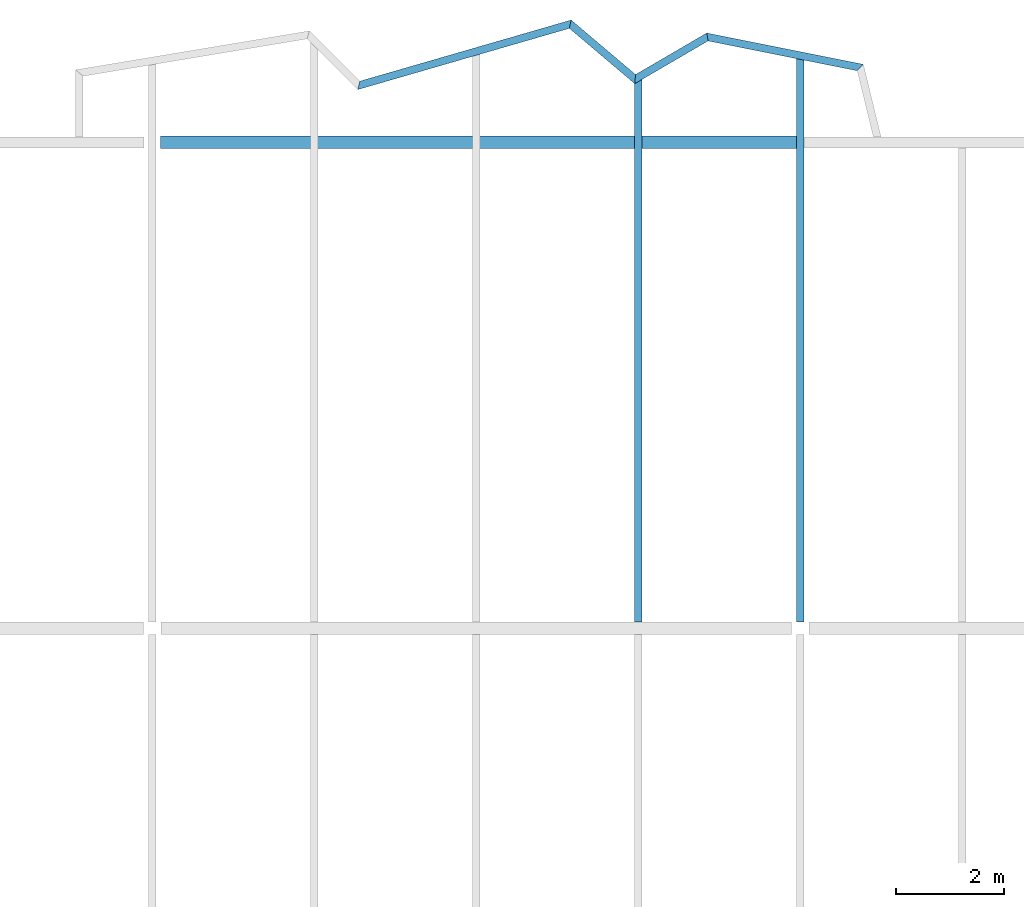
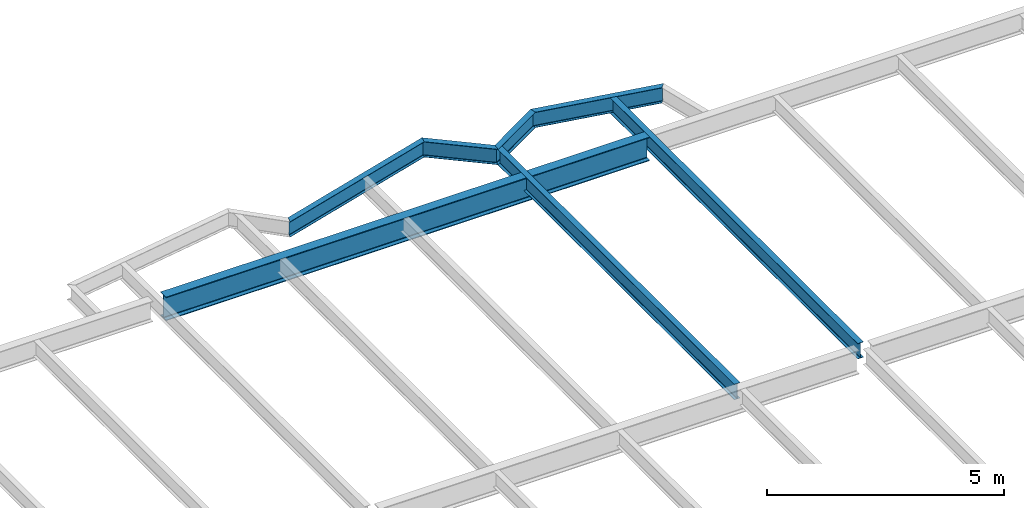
# One storey, part 11 of 26: 7 beams.
"""IFC2X3 building model written with IfcOpenShell, lengths in millimetres."""

from ifc_helpers import new_model, si_unit, origin, place, context, project, spatial, faceted_brep, material, element, save


model = new_model("IFC2X3")

# Units and contexts
context_of_model = context(None, 3, precision=1e-05, world=origin())
ifc_project = project(units=[si_unit("LENGTHUNIT", "METRE", prefix="MILLI")], contexts=[context_of_model])

# Building, storey
building = spatial("IfcBuilding", under=ifc_project, Name="Building", CompositionType="ELEMENT")
storey = spatial("IfcBuildingStorey", under=building, Name="FL4-FRM", CompositionType="ELEMENT")

# Beams
ifc_material_1 = material(Name="A992")
beam_1_placement = place(None, origin())
element("IfcBeam", 1, at=beam_1_placement, inside=storey, material=ifc_material_1, Name="Column351", context=context_of_model, shape_type="Brep", body=[
    faceted_brep([(-47846.0, 35885.5, 12761.0), (-47846.0, 36114.5, 12761.0), (-36070.0, 36114.5, 12761.0), (-36070.0, 35885.5, 12761.0), (-47846.0, 36114.5, 12780.6), (-36070.0, 36114.5, 12780.6), (-47846.0, 36018.6, 12780.6), (-36070.0, 36018.6, 12780.6), (-47846.0, 36015.4, 12781.0), (-36070.0, 36015.4, 12781.0), (-47846.0, 36012.3, 12782.3), (-36070.0, 36012.3, 12782.3), (-47846.0, 36009.7, 12784.3), (-36070.0, 36009.7, 12784.3), (-47846.0, 36007.7, 12787.0), (-36070.0, 36007.7, 12787.0), (-47846.0, 36006.4, 12790.0), (-36070.0, 36006.4, 12790.0), (-47846.0, 36005.9, 12793.3), (-36070.0, 36005.9, 12793.3), (-47846.0, 36005.9, 13340.7), (-36070.0, 36005.9, 13340.7), (-47846.0, 36006.4, 13344.0), (-36070.0, 36006.4, 13344.0), (-47846.0, 36007.7, 13347.0), (-36070.0, 36007.7, 13347.0), (-47846.0, 36009.7, 13349.7), (-36070.0, 36009.7, 13349.7), (-47846.0, 36012.3, 13351.7), (-36070.0, 36012.3, 13351.7), (-47846.0, 36015.4, 13353.0), (-36070.0, 36015.4, 13353.0), (-47846.0, 36018.6, 13353.4), (-36070.0, 36018.6, 13353.4), (-47846.0, 36114.5, 13353.4), (-36070.0, 36114.5, 13353.4), (-47846.0, 36114.5, 13373.0), (-36070.0, 36114.5, 13373.0), (-47846.0, 35885.5, 13373.0), (-36070.0, 35885.5, 13373.0), (-47846.0, 35885.5, 13353.4), (-36070.0, 35885.5, 13353.4), (-47846.0, 35981.4, 13353.4), (-36070.0, 35981.4, 13353.4), (-47846.0, 35984.6, 13353.0), (-36070.0, 35984.6, 13353.0), (-47846.0, 35987.7, 13351.7), (-36070.0, 35987.7, 13351.7), (-47846.0, 35990.3, 13349.7), (-36070.0, 35990.3, 13349.7), (-47846.0, 35992.3, 13347.0), (-36070.0, 35992.3, 13347.0), (-47846.0, 35993.6, 13344.0), (-36070.0, 35993.6, 13344.0), (-47846.0, 35994.1, 13340.7), (-36070.0, 35994.1, 13340.7), (-47846.0, 35994.1, 12793.3), (-36070.0, 35994.1, 12793.3), (-47846.0, 35993.6, 12790.0), (-36070.0, 35993.6, 12790.0), (-47846.0, 35992.3, 12787.0), (-36070.0, 35992.3, 12787.0), (-47846.0, 35990.3, 12784.3), (-36070.0, 35990.3, 12784.3), (-47846.0, 35987.7, 12782.3), (-36070.0, 35987.7, 12782.3), (-47846.0, 35984.6, 12781.0), (-36070.0, 35984.6, 12781.0), (-47846.0, 35981.4, 12780.6), (-36070.0, 35981.4, 12780.6), (-47846.0, 35885.5, 12780.6), (-36070.0, 35885.5, 12780.6)], [[[0, 1, 2, 3]], [[1, 4, 5, 2]], [[4, 6, 7, 5]], [[6, 8, 9, 7]], [[8, 10, 11, 9]], [[10, 12, 13, 11]], [[12, 14, 15, 13]], [[14, 16, 17, 15]], [[16, 18, 19, 17]], [[18, 20, 21, 19]], [[20, 22, 23, 21]], [[22, 24, 25, 23]], [[24, 26, 27, 25]], [[26, 28, 29, 27]], [[28, 30, 31, 29]], [[30, 32, 33, 31]], [[32, 34, 35, 33]], [[34, 36, 37, 35]], [[36, 38, 39, 37]], [[38, 40, 41, 39]], [[40, 42, 43, 41]], [[42, 44, 45, 43]], [[44, 46, 47, 45]], [[46, 48, 49, 47]], [[48, 50, 51, 49]], [[50, 52, 53, 51]], [[52, 54, 55, 53]], [[54, 56, 57, 55]], [[56, 58, 59, 57]], [[58, 60, 61, 59]], [[60, 62, 63, 61]], [[62, 64, 65, 63]], [[64, 66, 67, 65]], [[66, 68, 69, 67]], [[68, 70, 71, 69]], [[70, 0, 3, 71]], [[0, 70, 68, 66, 64, 62, 60, 58, 56, 54, 52, 50, 48, 46, 44, 42, 40, 38, 36, 34, 32, 30, 28, 26, 24, 22, 20, 18, 16, 14, 12, 10, 8, 6, 4, 1]], [[3, 2, 5, 7, 9, 11, 13, 15, 17, 19, 21, 23, 25, 27, 29, 31, 33, 35, 37, 39, 41, 43, 45, 47, 49, 51, 53, 55, 57, 59, 61, 63, 65, 67, 69, 71]]]),
])
ifc_material_2 = material(Name="A992")
beam_2_placement = place(None, origin())
element("IfcBeam", 2, at=beam_2_placement, inside=storey, material=ifc_material_2, Name="B993", context=context_of_model, shape_type="Brep", body=[
    faceted_brep([(-36070.0, 37552.7, 12974.0), (-35930.0, 37524.7, 12974.0), (-35930.0, 27114.5, 12974.0), (-36070.0, 27114.5, 12974.0), (-35930.0, 37524.7, 12982.8), (-35930.0, 27114.5, 12982.8), (-35986.6, 37536.0, 12982.8), (-35986.6, 27114.5, 12982.8), (-35988.1, 37536.3, 12982.9), (-35988.1, 27114.5, 12982.9), (-35989.5, 37536.6, 12983.2), (-35989.5, 27114.5, 12983.2), (-35990.8, 37536.9, 12983.7), (-35990.8, 27114.5, 12983.7), (-35992.1, 37537.1, 12984.4), (-35992.1, 27114.5, 12984.4), (-35993.3, 37537.4, 12985.3), (-35993.3, 27114.5, 12985.3), (-35994.3, 37537.6, 12986.3), (-35994.3, 27114.5, 12986.3), (-35995.2, 37537.7, 12987.5), (-35995.2, 27114.5, 12987.5), (-35995.9, 37537.9, 12988.8), (-35995.9, 27114.5, 12988.8), (-35996.4, 37538.0, 12990.1), (-35996.4, 27114.5, 12990.1), (-35996.7, 37538.1, 12991.5), (-35996.7, 27114.5, 12991.5), (-35996.8, 37538.1, 12993.0), (-35996.8, 27114.5, 12993.0), (-35996.8, 37538.1, 13354.0), (-35996.8, 27114.5, 13354.0), (-35996.7, 37538.1, 13355.5), (-35996.7, 27114.5, 13355.5), (-35996.4, 37538.0, 13356.9), (-35996.4, 27114.5, 13356.9), (-35995.9, 37537.9, 13358.2), (-35995.9, 27114.5, 13358.2), (-35995.2, 37537.7, 13359.5), (-35995.2, 27114.5, 13359.5), (-35994.3, 37537.6, 13360.7), (-35994.3, 27114.5, 13360.7), (-35993.3, 37537.4, 13361.7), (-35993.3, 27114.5, 13361.7), (-35992.1, 37537.1, 13362.6), (-35992.1, 27114.5, 13362.6), (-35990.8, 37536.9, 13363.3), (-35990.8, 27114.5, 13363.3), (-35989.5, 37536.6, 13363.8), (-35989.5, 27114.5, 13363.8), (-35988.1, 37536.3, 13364.1), (-35988.1, 27114.5, 13364.1), (-35986.6, 37536.0, 13364.2), (-35986.6, 27114.5, 13364.2), (-35930.0, 37524.7, 13364.2), (-35930.0, 27114.5, 13364.2), (-35930.0, 37524.7, 13373.0), (-35930.0, 27114.5, 13373.0), (-36070.0, 37552.7, 13373.0), (-36070.0, 27114.5, 13373.0), (-36070.0, 37552.7, 13364.2), (-36070.0, 27114.5, 13364.2), (-36013.4, 37541.4, 13364.2), (-36013.4, 27114.5, 13364.2), (-36011.9, 37541.1, 13364.1), (-36011.9, 27114.5, 13364.1), (-36010.5, 37540.8, 13363.8), (-36010.5, 27114.5, 13363.8), (-36009.2, 37540.5, 13363.3), (-36009.2, 27114.5, 13363.3), (-36007.9, 37540.3, 13362.6), (-36007.9, 27114.5, 13362.6), (-36006.7, 37540.1, 13361.7), (-36006.7, 27114.5, 13361.7), (-36005.7, 37539.9, 13360.7), (-36005.7, 27114.5, 13360.7), (-36004.8, 37539.7, 13359.5), (-36004.8, 27114.5, 13359.5), (-36004.1, 37539.5, 13358.2), (-36004.1, 27114.5, 13358.2), (-36003.6, 37539.4, 13356.9), (-36003.6, 27114.5, 13356.9), (-36003.3, 37539.4, 13355.5), (-36003.3, 27114.5, 13355.5), (-36003.2, 37539.4, 13354.0), (-36003.2, 27114.5, 13354.0), (-36003.2, 37539.4, 12993.0), (-36003.2, 27114.5, 12993.0), (-36003.3, 37539.4, 12991.5), (-36003.3, 27114.5, 12991.5), (-36003.6, 37539.4, 12990.1), (-36003.6, 27114.5, 12990.1), (-36004.1, 37539.5, 12988.8), (-36004.1, 27114.5, 12988.8), (-36004.8, 37539.7, 12987.5), (-36004.8, 27114.5, 12987.5), (-36005.7, 37539.9, 12986.3), (-36005.7, 27114.5, 12986.3), (-36006.7, 37540.1, 12985.3), (-36006.7, 27114.5, 12985.3), (-36007.9, 37540.3, 12984.4), (-36007.9, 27114.5, 12984.4), (-36009.2, 37540.5, 12983.7), (-36009.2, 27114.5, 12983.7), (-36010.5, 37540.8, 12983.2), (-36010.5, 27114.5, 12983.2), (-36011.9, 37541.1, 12982.9), (-36011.9, 27114.5, 12982.9), (-36013.4, 37541.4, 12982.8), (-36013.4, 27114.5, 12982.8), (-36070.0, 37552.7, 12982.8), (-36070.0, 27114.5, 12982.8)], [[[0, 1, 2, 3]], [[1, 4, 5, 2]], [[4, 6, 7, 5]], [[6, 8, 9, 7]], [[8, 10, 11, 9]], [[10, 12, 13, 11]], [[12, 14, 15, 13]], [[14, 16, 17, 15]], [[16, 18, 19, 17]], [[18, 20, 21, 19]], [[20, 22, 23, 21]], [[22, 24, 25, 23]], [[24, 26, 27, 25]], [[26, 28, 29, 27]], [[28, 30, 31, 29]], [[30, 32, 33, 31]], [[32, 34, 35, 33]], [[34, 36, 37, 35]], [[36, 38, 39, 37]], [[38, 40, 41, 39]], [[40, 42, 43, 41]], [[42, 44, 45, 43]], [[44, 46, 47, 45]], [[46, 48, 49, 47]], [[48, 50, 51, 49]], [[50, 52, 53, 51]], [[52, 54, 55, 53]], [[54, 56, 57, 55]], [[56, 58, 59, 57]], [[58, 60, 61, 59]], [[60, 62, 63, 61]], [[62, 64, 65, 63]], [[64, 66, 67, 65]], [[66, 68, 69, 67]], [[68, 70, 71, 69]], [[70, 72, 73, 71]], [[72, 74, 75, 73]], [[74, 76, 77, 75]], [[76, 78, 79, 77]], [[78, 80, 81, 79]], [[80, 82, 83, 81]], [[82, 84, 85, 83]], [[84, 86, 87, 85]], [[86, 88, 89, 87]], [[88, 90, 91, 89]], [[90, 92, 93, 91]], [[92, 94, 95, 93]], [[94, 96, 97, 95]], [[96, 98, 99, 97]], [[98, 100, 101, 99]], [[100, 102, 103, 101]], [[102, 104, 105, 103]], [[104, 106, 107, 105]], [[106, 108, 109, 107]], [[108, 110, 111, 109]], [[110, 0, 3, 111]], [[0, 110, 108, 106, 104, 102, 100, 98, 96, 94, 92, 90, 88, 86, 84, 82, 80, 78, 76, 74, 72, 70, 68, 66, 64, 62, 60, 58, 56, 54, 52, 50, 48, 46, 44, 42, 40, 38, 36, 34, 32, 30, 28, 26, 24, 22, 20, 18, 16, 14, 12, 10, 8, 6, 4, 1]], [[3, 2, 5, 7, 9, 11, 13, 15, 17, 19, 21, 23, 25, 27, 29, 31, 33, 35, 37, 39, 41, 43, 45, 47, 49, 51, 53, 55, 57, 59, 61, 63, 65, 67, 69, 71, 73, 75, 77, 79, 81, 83, 85, 87, 89, 91, 93, 95, 97, 99, 101, 103, 105, 107, 109, 111]]]),
])
ifc_material_3 = material(Name="A992")
beam_3_placement = place(None, origin())
element("IfcBeam", 3, at=beam_3_placement, inside=storey, material=ifc_material_3, Name="B994", context=context_of_model, shape_type="Brep", body=[
    faceted_brep([(-37703.9, 37879.5, 12974.0), (-37728.6, 38027.2, 12974.0), (-34827.2, 37446.9, 12974.0), (-34942.2, 37327.2, 12974.0), (-37728.6, 38027.2, 12982.8), (-34827.2, 37446.9, 12982.8), (-37718.6, 37967.5, 12982.8), (-34873.7, 37398.5, 12982.8), (-37718.3, 37965.8, 12982.9), (-34875.0, 37397.1, 12982.9), (-37718.0, 37964.2, 12983.3), (-34876.3, 37395.8, 12983.3), (-37717.8, 37962.6, 12983.9), (-34877.5, 37394.6, 12983.9), (-37717.5, 37961.2, 12984.7), (-34878.6, 37393.4, 12984.7), (-37717.3, 37959.9, 12985.8), (-34879.6, 37392.3, 12985.8), (-37717.1, 37958.8, 12987.0), (-34880.5, 37391.5, 12987.0), (-37717.0, 37957.9, 12988.4), (-34881.2, 37390.7, 12988.4), (-37716.9, 37957.3, 12989.8), (-34881.7, 37390.2, 12989.8), (-37716.8, 37956.9, 12991.4), (-34882.0, 37389.9, 12991.4), (-37716.8, 37956.7, 12993.0), (-34882.1, 37389.8, 12993.0), (-37716.8, 37956.7, 13354.0), (-34882.1, 37389.8, 13354.0), (-37716.8, 37956.9, 13355.6), (-34882.0, 37389.9, 13355.6), (-37716.9, 37957.3, 13357.2), (-34881.7, 37390.2, 13357.2), (-37717.0, 37957.9, 13358.6), (-34881.2, 37390.7, 13358.6), (-37717.1, 37958.8, 13360.0), (-34880.5, 37391.5, 13360.0), (-37717.3, 37959.9, 13361.2), (-34879.6, 37392.3, 13361.2), (-37717.5, 37961.2, 13362.3), (-34878.6, 37393.4, 13362.3), (-37717.8, 37962.6, 13363.1), (-34877.5, 37394.6, 13363.1), (-37718.0, 37964.2, 13363.7), (-34876.3, 37395.8, 13363.7), (-37718.3, 37965.8, 13364.1), (-34875.0, 37397.1, 13364.1), (-37718.6, 37967.5, 13364.2), (-34873.7, 37398.5, 13364.2), (-37728.6, 38027.2, 13364.2), (-34827.2, 37446.9, 13364.2), (-37728.6, 38027.2, 13373.0), (-34827.2, 37446.9, 13373.0), (-37703.9, 37879.5, 13373.0), (-34942.2, 37327.2, 13373.0), (-37703.9, 37879.5, 13364.2), (-34942.2, 37327.2, 13364.2), (-37713.9, 37939.2, 13364.2), (-34895.7, 37375.6, 13364.2), (-37714.2, 37940.9, 13364.1), (-34894.4, 37376.9, 13364.1), (-37714.4, 37942.5, 13363.7), (-34893.1, 37378.3, 13363.7), (-37714.7, 37944.1, 13363.1), (-34891.9, 37379.5, 13363.1), (-37714.9, 37945.5, 13362.3), (-34890.8, 37380.7, 13362.3), (-37715.1, 37946.8, 13361.2), (-34889.8, 37381.7, 13361.2), (-37715.3, 37947.9, 13360.0), (-34889.0, 37382.6, 13360.0), (-37715.5, 37948.8, 13358.6), (-34888.3, 37383.3, 13358.6), (-37715.6, 37949.4, 13357.2), (-34887.8, 37383.9, 13357.2), (-37715.6, 37949.8, 13355.6), (-34887.5, 37384.2, 13355.6), (-37715.7, 37950.0, 13354.0), (-34887.3, 37384.3, 13354.0), (-37715.7, 37950.0, 12993.0), (-34887.3, 37384.3, 12993.0), (-37715.6, 37949.8, 12991.4), (-34887.5, 37384.2, 12991.4), (-37715.6, 37949.4, 12989.8), (-34887.8, 37383.9, 12989.8), (-37715.5, 37948.8, 12988.4), (-34888.3, 37383.3, 12988.4), (-37715.3, 37947.9, 12987.0), (-34889.0, 37382.6, 12987.0), (-37715.1, 37946.8, 12985.8), (-34889.8, 37381.7, 12985.8), (-37714.9, 37945.5, 12984.7), (-34890.8, 37380.7, 12984.7), (-37714.7, 37944.1, 12983.9), (-34891.9, 37379.5, 12983.9), (-37714.4, 37942.5, 12983.3), (-34893.1, 37378.3, 12983.3), (-37714.2, 37940.9, 12982.9), (-34894.4, 37376.9, 12982.9), (-37713.9, 37939.2, 12982.8), (-34895.7, 37375.6, 12982.8), (-37703.9, 37879.5, 12982.8), (-34942.2, 37327.2, 12982.8)], [[[0, 1, 2, 3]], [[1, 4, 5, 2]], [[4, 6, 7, 5]], [[6, 8, 9, 7]], [[8, 10, 11, 9]], [[10, 12, 13, 11]], [[12, 14, 15, 13]], [[14, 16, 17, 15]], [[16, 18, 19, 17]], [[18, 20, 21, 19]], [[20, 22, 23, 21]], [[22, 24, 25, 23]], [[24, 26, 27, 25]], [[26, 28, 29, 27]], [[28, 30, 31, 29]], [[30, 32, 33, 31]], [[32, 34, 35, 33]], [[34, 36, 37, 35]], [[36, 38, 39, 37]], [[38, 40, 41, 39]], [[40, 42, 43, 41]], [[42, 44, 45, 43]], [[44, 46, 47, 45]], [[46, 48, 49, 47]], [[48, 50, 51, 49]], [[50, 52, 53, 51]], [[52, 54, 55, 53]], [[54, 56, 57, 55]], [[56, 58, 59, 57]], [[58, 60, 61, 59]], [[60, 62, 63, 61]], [[62, 64, 65, 63]], [[64, 66, 67, 65]], [[66, 68, 69, 67]], [[68, 70, 71, 69]], [[70, 72, 73, 71]], [[72, 74, 75, 73]], [[74, 76, 77, 75]], [[76, 78, 79, 77]], [[78, 80, 81, 79]], [[80, 82, 83, 81]], [[82, 84, 85, 83]], [[84, 86, 87, 85]], [[86, 88, 89, 87]], [[88, 90, 91, 89]], [[90, 92, 93, 91]], [[92, 94, 95, 93]], [[94, 96, 97, 95]], [[96, 98, 99, 97]], [[98, 100, 101, 99]], [[100, 102, 103, 101]], [[102, 0, 3, 103]], [[0, 102, 100, 98, 96, 94, 92, 90, 88, 86, 84, 82, 80, 78, 76, 74, 72, 70, 68, 66, 64, 62, 60, 58, 56, 54, 52, 50, 48, 46, 44, 42, 40, 38, 36, 34, 32, 30, 28, 26, 24, 22, 20, 18, 16, 14, 12, 10, 8, 6, 4, 1]], [[3, 2, 5, 7, 9, 11, 13, 15, 17, 19, 21, 23, 25, 27, 29, 31, 33, 35, 37, 39, 41, 43, 45, 47, 49, 51, 53, 55, 57, 59, 61, 63, 65, 67, 69, 71, 73, 75, 77, 79, 81, 83, 85, 87, 89, 91, 93, 95, 97, 99, 101, 103]]]),
])
ifc_material_4 = material(Name="A992")
beam_4_placement = place(None, origin())
element("IfcBeam", 4, at=beam_4_placement, inside=storey, material=ifc_material_4, Name="B995", context=context_of_model, shape_type="Brep", body=[
    faceted_brep([(-39062.7, 37086.8, 12974.0), (-39047.8, 37257.6, 12974.0), (-37728.6, 38027.2, 12974.0), (-37703.9, 37879.5, 12974.0), (-39047.8, 37257.6, 12982.8), (-37728.6, 38027.2, 12982.8), (-39053.9, 37188.6, 12982.8), (-37718.6, 37967.5, 12982.8), (-39054.0, 37186.6, 12982.9), (-37718.3, 37965.8, 12982.9), (-39054.2, 37184.7, 12983.3), (-37718.0, 37964.2, 12983.3), (-39054.3, 37183.0, 12983.9), (-37717.8, 37962.6, 12983.9), (-39054.5, 37181.3, 12984.7), (-37717.5, 37961.2, 12984.7), (-39054.6, 37179.8, 12985.8), (-37717.3, 37959.9, 12985.8), (-39054.7, 37178.5, 12987.0), (-37717.1, 37958.8, 12987.0), (-39054.8, 37177.5, 12988.3), (-37717.0, 37957.9, 12988.4), (-39054.9, 37176.8, 12989.8), (-37716.9, 37957.3, 12989.8), (-39054.9, 37176.3, 12991.4), (-37716.8, 37956.9, 12991.4), (-39054.9, 37176.1, 12993.0), (-37716.8, 37956.7, 12993.0), (-39054.9, 37176.1, 13354.0), (-37716.8, 37956.7, 13354.0), (-39054.9, 37176.3, 13355.6), (-37716.8, 37956.9, 13355.6), (-39054.9, 37176.8, 13357.2), (-37716.9, 37957.3, 13357.2), (-39054.8, 37177.5, 13358.7), (-37717.0, 37957.9, 13358.6), (-39054.7, 37178.5, 13360.0), (-37717.1, 37958.8, 13360.0), (-39054.6, 37179.8, 13361.2), (-37717.3, 37959.9, 13361.2), (-39054.5, 37181.3, 13362.3), (-37717.5, 37961.2, 13362.3), (-39054.3, 37183.0, 13363.1), (-37717.8, 37962.6, 13363.1), (-39054.2, 37184.7, 13363.7), (-37718.0, 37964.2, 13363.7), (-39054.0, 37186.6, 13364.1), (-37718.3, 37965.8, 13364.1), (-39053.9, 37188.6, 13364.2), (-37718.6, 37967.5, 13364.2), (-39047.8, 37257.6, 13364.2), (-37728.6, 38027.2, 13364.2), (-39047.8, 37257.6, 13373.0), (-37728.6, 38027.2, 13373.0), (-39062.7, 37086.8, 13373.0), (-37703.9, 37879.5, 13373.0), (-39062.7, 37086.8, 13364.2), (-37703.9, 37879.5, 13364.2), (-39056.7, 37155.9, 13364.2), (-37713.9, 37939.2, 13364.2), (-39056.5, 37157.8, 13364.1), (-37714.2, 37940.9, 13364.1), (-39056.4, 37159.7, 13363.7), (-37714.4, 37942.5, 13363.7), (-39056.2, 37161.5, 13363.1), (-37714.7, 37944.1, 13363.1), (-39056.1, 37163.2, 13362.3), (-37714.9, 37945.5, 13362.3), (-39055.9, 37164.7, 13361.2), (-37715.1, 37946.8, 13361.2), (-39055.8, 37165.9, 13360.0), (-37715.3, 37947.9, 13360.0), (-39055.7, 37167.0, 13358.7), (-37715.5, 37948.8, 13358.6), (-39055.7, 37167.7, 13357.2), (-37715.6, 37949.4, 13357.2), (-39055.6, 37168.2, 13355.6), (-37715.6, 37949.8, 13355.6), (-39055.6, 37168.3, 13354.0), (-37715.7, 37950.0, 13354.0), (-39055.6, 37168.3, 12993.0), (-37715.7, 37950.0, 12993.0), (-39055.6, 37168.2, 12991.4), (-37715.6, 37949.8, 12991.4), (-39055.7, 37167.7, 12989.8), (-37715.6, 37949.4, 12989.8), (-39055.7, 37167.0, 12988.3), (-37715.5, 37948.8, 12988.4), (-39055.8, 37165.9, 12987.0), (-37715.3, 37947.9, 12987.0), (-39055.9, 37164.7, 12985.8), (-37715.1, 37946.8, 12985.8), (-39056.1, 37163.2, 12984.7), (-37714.9, 37945.5, 12984.7), (-39056.2, 37161.5, 12983.9), (-37714.7, 37944.1, 12983.9), (-39056.4, 37159.7, 12983.3), (-37714.4, 37942.5, 12983.3), (-39056.5, 37157.8, 12982.9), (-37714.2, 37940.9, 12982.9), (-39056.7, 37155.9, 12982.8), (-37713.9, 37939.2, 12982.8), (-39062.7, 37086.8, 12982.8), (-37703.9, 37879.5, 12982.8)], [[[0, 1, 2, 3]], [[1, 4, 5, 2]], [[4, 6, 7, 5]], [[6, 8, 9, 7]], [[8, 10, 11, 9]], [[10, 12, 13, 11]], [[12, 14, 15, 13]], [[14, 16, 17, 15]], [[16, 18, 19, 17]], [[18, 20, 21, 19]], [[20, 22, 23, 21]], [[22, 24, 25, 23]], [[24, 26, 27, 25]], [[26, 28, 29, 27]], [[28, 30, 31, 29]], [[30, 32, 33, 31]], [[32, 34, 35, 33]], [[34, 36, 37, 35]], [[36, 38, 39, 37]], [[38, 40, 41, 39]], [[40, 42, 43, 41]], [[42, 44, 45, 43]], [[44, 46, 47, 45]], [[46, 48, 49, 47]], [[48, 50, 51, 49]], [[50, 52, 53, 51]], [[52, 54, 55, 53]], [[54, 56, 57, 55]], [[56, 58, 59, 57]], [[58, 60, 61, 59]], [[60, 62, 63, 61]], [[62, 64, 65, 63]], [[64, 66, 67, 65]], [[66, 68, 69, 67]], [[68, 70, 71, 69]], [[70, 72, 73, 71]], [[72, 74, 75, 73]], [[74, 76, 77, 75]], [[76, 78, 79, 77]], [[78, 80, 81, 79]], [[80, 82, 83, 81]], [[82, 84, 85, 83]], [[84, 86, 87, 85]], [[86, 88, 89, 87]], [[88, 90, 91, 89]], [[90, 92, 93, 91]], [[92, 94, 95, 93]], [[94, 96, 97, 95]], [[96, 98, 99, 97]], [[98, 100, 101, 99]], [[100, 102, 103, 101]], [[102, 0, 3, 103]], [[0, 102, 100, 98, 96, 94, 92, 90, 88, 86, 84, 82, 80, 78, 76, 74, 72, 70, 68, 66, 64, 62, 60, 58, 56, 54, 52, 50, 48, 46, 44, 42, 40, 38, 36, 34, 32, 30, 28, 26, 24, 22, 20, 18, 16, 14, 12, 10, 8, 6, 4, 1]], [[3, 2, 5, 7, 9, 11, 13, 15, 17, 19, 21, 23, 25, 27, 29, 31, 33, 35, 37, 39, 41, 43, 45, 47, 49, 51, 53, 55, 57, 59, 61, 63, 65, 67, 69, 71, 73, 75, 77, 79, 81, 83, 85, 87, 89, 91, 93, 95, 97, 99, 101, 103]]]),
])
ifc_material_5 = material(Name="A992")
beam_5_placement = place(None, origin())
element("IfcBeam", 5, at=beam_5_placement, inside=storey, material=ifc_material_5, Name="B996", context=context_of_model, shape_type="Brep", body=[
    faceted_brep([(-39070.0, 37082.6, 12974.0), (-38930.0, 37164.3, 12974.0), (-38930.0, 27114.5, 12974.0), (-39070.0, 27114.5, 12974.0), (-38930.0, 37164.3, 12982.8), (-38930.0, 27114.5, 12982.8), (-38986.6, 37131.3, 12982.8), (-38986.6, 27114.5, 12982.8), (-38988.0, 37130.4, 12982.9), (-38988.1, 27114.5, 12982.9), (-38989.5, 37129.6, 12983.2), (-38989.5, 27114.5, 12983.2), (-38990.8, 37128.8, 12983.7), (-38990.8, 27114.5, 12983.7), (-38992.1, 37128.1, 12984.4), (-38992.1, 27114.5, 12984.4), (-38993.3, 37127.4, 12985.3), (-38993.3, 27114.5, 12985.3), (-38994.3, 37126.8, 12986.3), (-38994.3, 27114.5, 12986.3), (-38995.2, 37126.3, 12987.5), (-38995.2, 27114.5, 12987.5), (-38995.9, 37125.8, 12988.8), (-38995.9, 27114.5, 12988.8), (-38996.4, 37125.6, 12990.1), (-38996.4, 27114.5, 12990.1), (-38996.7, 37125.4, 12991.5), (-38996.7, 27114.5, 12991.5), (-38996.8, 37125.3, 12993.0), (-38996.8, 27114.5, 12993.0), (-38996.8, 37125.3, 13354.0), (-38996.8, 27114.5, 13354.0), (-38996.7, 37125.4, 13355.5), (-38996.7, 27114.5, 13355.5), (-38996.4, 37125.6, 13356.9), (-38996.4, 27114.5, 13356.9), (-38995.9, 37125.8, 13358.2), (-38995.9, 27114.5, 13358.2), (-38995.2, 37126.3, 13359.5), (-38995.2, 27114.5, 13359.5), (-38994.3, 37126.8, 13360.7), (-38994.3, 27114.5, 13360.7), (-38993.3, 37127.4, 13361.7), (-38993.3, 27114.5, 13361.7), (-38992.1, 37128.1, 13362.6), (-38992.1, 27114.5, 13362.6), (-38990.8, 37128.8, 13363.3), (-38990.8, 27114.5, 13363.3), (-38989.5, 37129.6, 13363.8), (-38989.5, 27114.5, 13363.8), (-38988.0, 37130.4, 13364.1), (-38988.1, 27114.5, 13364.1), (-38986.6, 37131.3, 13364.2), (-38986.6, 27114.5, 13364.2), (-38930.0, 37164.3, 13364.2), (-38930.0, 27114.5, 13364.2), (-38930.0, 37164.3, 13373.0), (-38930.0, 27114.5, 13373.0), (-39070.0, 37082.6, 13373.0), (-39070.0, 27114.5, 13373.0), (-39070.0, 37082.6, 13364.2), (-39070.0, 27114.5, 13364.2), (-39013.4, 37115.6, 13364.2), (-39013.4, 27114.5, 13364.2), (-39012.0, 37116.5, 13364.1), (-39011.9, 27114.5, 13364.1), (-39010.5, 37117.3, 13363.8), (-39010.5, 27114.5, 13363.8), (-39009.2, 37118.1, 13363.3), (-39009.2, 27114.5, 13363.3), (-39007.9, 37118.8, 13362.6), (-39007.9, 27114.5, 13362.6), (-39006.7, 37119.5, 13361.7), (-39006.7, 27114.5, 13361.7), (-39005.7, 37120.1, 13360.7), (-39005.7, 27114.5, 13360.7), (-39004.8, 37120.6, 13359.5), (-39004.8, 27114.5, 13359.5), (-39004.1, 37121.0, 13358.2), (-39004.1, 27114.5, 13358.2), (-39003.6, 37121.3, 13356.9), (-39003.6, 27114.5, 13356.9), (-39003.3, 37121.5, 13355.5), (-39003.3, 27114.5, 13355.5), (-39003.2, 37121.6, 13354.0), (-39003.2, 27114.5, 13354.0), (-39003.2, 37121.6, 12993.0), (-39003.2, 27114.5, 12993.0), (-39003.3, 37121.5, 12991.5), (-39003.3, 27114.5, 12991.5), (-39003.6, 37121.3, 12990.1), (-39003.6, 27114.5, 12990.1), (-39004.1, 37121.0, 12988.8), (-39004.1, 27114.5, 12988.8), (-39004.8, 37120.6, 12987.5), (-39004.8, 27114.5, 12987.5), (-39005.7, 37120.1, 12986.3), (-39005.7, 27114.5, 12986.3), (-39006.7, 37119.5, 12985.3), (-39006.7, 27114.5, 12985.3), (-39007.9, 37118.8, 12984.4), (-39007.9, 27114.5, 12984.4), (-39009.2, 37118.1, 12983.7), (-39009.2, 27114.5, 12983.7), (-39010.5, 37117.3, 12983.2), (-39010.5, 27114.5, 12983.2), (-39012.0, 37116.5, 12982.9), (-39011.9, 27114.5, 12982.9), (-39013.4, 37115.6, 12982.8), (-39013.4, 27114.5, 12982.8), (-39070.0, 37082.6, 12982.8), (-39070.0, 27114.5, 12982.8)], [[[0, 1, 2, 3]], [[1, 4, 5, 2]], [[4, 6, 7, 5]], [[6, 8, 9, 7]], [[8, 10, 11, 9]], [[10, 12, 13, 11]], [[12, 14, 15, 13]], [[14, 16, 17, 15]], [[16, 18, 19, 17]], [[18, 20, 21, 19]], [[20, 22, 23, 21]], [[22, 24, 25, 23]], [[24, 26, 27, 25]], [[26, 28, 29, 27]], [[28, 30, 31, 29]], [[30, 32, 33, 31]], [[32, 34, 35, 33]], [[34, 36, 37, 35]], [[36, 38, 39, 37]], [[38, 40, 41, 39]], [[40, 42, 43, 41]], [[42, 44, 45, 43]], [[44, 46, 47, 45]], [[46, 48, 49, 47]], [[48, 50, 51, 49]], [[50, 52, 53, 51]], [[52, 54, 55, 53]], [[54, 56, 57, 55]], [[56, 58, 59, 57]], [[58, 60, 61, 59]], [[60, 62, 63, 61]], [[62, 64, 65, 63]], [[64, 66, 67, 65]], [[66, 68, 69, 67]], [[68, 70, 71, 69]], [[70, 72, 73, 71]], [[72, 74, 75, 73]], [[74, 76, 77, 75]], [[76, 78, 79, 77]], [[78, 80, 81, 79]], [[80, 82, 83, 81]], [[82, 84, 85, 83]], [[84, 86, 87, 85]], [[86, 88, 89, 87]], [[88, 90, 91, 89]], [[90, 92, 93, 91]], [[92, 94, 95, 93]], [[94, 96, 97, 95]], [[96, 98, 99, 97]], [[98, 100, 101, 99]], [[100, 102, 103, 101]], [[102, 104, 105, 103]], [[104, 106, 107, 105]], [[106, 108, 109, 107]], [[108, 110, 111, 109]], [[110, 0, 3, 111]], [[0, 110, 108, 106, 104, 102, 100, 98, 96, 94, 92, 90, 88, 86, 84, 82, 80, 78, 76, 74, 72, 70, 68, 66, 64, 62, 60, 58, 56, 54, 52, 50, 48, 46, 44, 42, 40, 38, 36, 34, 32, 30, 28, 26, 24, 22, 20, 18, 16, 14, 12, 10, 8, 6, 4, 1]], [[3, 2, 5, 7, 9, 11, 13, 15, 17, 19, 21, 23, 25, 27, 29, 31, 33, 35, 37, 39, 41, 43, 45, 47, 49, 51, 53, 55, 57, 59, 61, 63, 65, 67, 69, 71, 73, 75, 77, 79, 81, 83, 85, 87, 89, 91, 93, 95, 97, 99, 101, 103, 105, 107, 109, 111]]]),
])
ifc_material_6 = material(Name="A992")
beam_6_placement = place(None, origin())
element("IfcBeam", 6, at=beam_6_placement, inside=storey, material=ifc_material_6, Name="B997", context=context_of_model, shape_type="Brep", body=[
    faceted_brep([(-40274.2, 38112.0, 12974.0), (-40241.1, 38267.3, 12974.0), (-39047.8, 37257.6, 12974.0), (-39062.7, 37086.8, 12974.0), (-40241.1, 38267.3, 12982.8), (-39047.8, 37257.6, 12982.8), (-40254.5, 38204.5, 12982.8), (-39053.9, 37188.6, 12982.8), (-40254.9, 38202.7, 12982.9), (-39054.0, 37186.6, 12982.9), (-40255.2, 38201.0, 12983.3), (-39054.2, 37184.7, 12983.3), (-40255.6, 38199.4, 12983.9), (-39054.3, 37183.0, 12983.9), (-40255.9, 38197.9, 12984.7), (-39054.5, 37181.3, 12984.7), (-40256.2, 38196.5, 12985.8), (-39054.6, 37179.8, 12985.8), (-40256.4, 38195.4, 12987.0), (-39054.7, 37178.5, 12987.0), (-40256.6, 38194.4, 12988.4), (-39054.8, 37177.5, 12988.3), (-40256.8, 38193.7, 12989.8), (-39054.9, 37176.8, 12989.8), (-40256.9, 38193.3, 12991.4), (-39054.9, 37176.3, 12991.4), (-40256.9, 38193.2, 12993.0), (-39054.9, 37176.1, 12993.0), (-40256.9, 38193.2, 13354.0), (-39054.9, 37176.1, 13354.0), (-40256.9, 38193.3, 13355.6), (-39054.9, 37176.3, 13355.6), (-40256.8, 38193.7, 13357.2), (-39054.9, 37176.8, 13357.2), (-40256.6, 38194.4, 13358.6), (-39054.8, 37177.5, 13358.7), (-40256.4, 38195.4, 13360.0), (-39054.7, 37178.5, 13360.0), (-40256.2, 38196.5, 13361.2), (-39054.6, 37179.8, 13361.2), (-40255.9, 38197.9, 13362.3), (-39054.5, 37181.3, 13362.3), (-40255.6, 38199.4, 13363.1), (-39054.3, 37183.0, 13363.1), (-40255.2, 38201.0, 13363.7), (-39054.2, 37184.7, 13363.7), (-40254.9, 38202.7, 13364.1), (-39054.0, 37186.6, 13364.1), (-40254.5, 38204.5, 13364.2), (-39053.9, 37188.6, 13364.2), (-40241.1, 38267.3, 13364.2), (-39047.8, 37257.6, 13364.2), (-40241.1, 38267.3, 13373.0), (-39047.8, 37257.6, 13373.0), (-40274.2, 38112.0, 13373.0), (-39062.7, 37086.8, 13373.0), (-40274.2, 38112.0, 13364.2), (-39062.7, 37086.8, 13364.2), (-40260.8, 38174.8, 13364.2), (-39056.7, 37155.9, 13364.2), (-40260.5, 38176.5, 13364.1), (-39056.5, 37157.8, 13364.1), (-40260.1, 38178.3, 13363.7), (-39056.4, 37159.7, 13363.7), (-40259.7, 38179.9, 13363.1), (-39056.2, 37161.5, 13363.1), (-40259.4, 38181.4, 13362.3), (-39056.1, 37163.2, 13362.3), (-40259.1, 38182.8, 13361.2), (-39055.9, 37164.7, 13361.2), (-40258.9, 38183.9, 13360.0), (-39055.8, 37165.9, 13360.0), (-40258.7, 38184.8, 13358.6), (-39055.7, 37167.0, 13358.7), (-40258.5, 38185.5, 13357.2), (-39055.7, 37167.7, 13357.2), (-40258.5, 38185.9, 13355.6), (-39055.6, 37168.2, 13355.6), (-40258.4, 38186.1, 13354.0), (-39055.6, 37168.3, 13354.0), (-40258.4, 38186.1, 12993.0), (-39055.6, 37168.3, 12993.0), (-40258.5, 38185.9, 12991.4), (-39055.6, 37168.2, 12991.4), (-40258.5, 38185.5, 12989.8), (-39055.7, 37167.7, 12989.8), (-40258.7, 38184.8, 12988.4), (-39055.7, 37167.0, 12988.3), (-40258.9, 38183.9, 12987.0), (-39055.8, 37165.9, 12987.0), (-40259.1, 38182.8, 12985.8), (-39055.9, 37164.7, 12985.8), (-40259.4, 38181.4, 12984.7), (-39056.1, 37163.2, 12984.7), (-40259.7, 38179.9, 12983.9), (-39056.2, 37161.5, 12983.9), (-40260.1, 38178.3, 12983.3), (-39056.4, 37159.7, 12983.3), (-40260.5, 38176.5, 12982.9), (-39056.5, 37157.8, 12982.9), (-40260.8, 38174.8, 12982.8), (-39056.7, 37155.9, 12982.8), (-40274.2, 38112.0, 12982.8), (-39062.7, 37086.8, 12982.8)], [[[0, 1, 2, 3]], [[1, 4, 5, 2]], [[4, 6, 7, 5]], [[6, 8, 9, 7]], [[8, 10, 11, 9]], [[10, 12, 13, 11]], [[12, 14, 15, 13]], [[14, 16, 17, 15]], [[16, 18, 19, 17]], [[18, 20, 21, 19]], [[20, 22, 23, 21]], [[22, 24, 25, 23]], [[24, 26, 27, 25]], [[26, 28, 29, 27]], [[28, 30, 31, 29]], [[30, 32, 33, 31]], [[32, 34, 35, 33]], [[34, 36, 37, 35]], [[36, 38, 39, 37]], [[38, 40, 41, 39]], [[40, 42, 43, 41]], [[42, 44, 45, 43]], [[44, 46, 47, 45]], [[46, 48, 49, 47]], [[48, 50, 51, 49]], [[50, 52, 53, 51]], [[52, 54, 55, 53]], [[54, 56, 57, 55]], [[56, 58, 59, 57]], [[58, 60, 61, 59]], [[60, 62, 63, 61]], [[62, 64, 65, 63]], [[64, 66, 67, 65]], [[66, 68, 69, 67]], [[68, 70, 71, 69]], [[70, 72, 73, 71]], [[72, 74, 75, 73]], [[74, 76, 77, 75]], [[76, 78, 79, 77]], [[78, 80, 81, 79]], [[80, 82, 83, 81]], [[82, 84, 85, 83]], [[84, 86, 87, 85]], [[86, 88, 89, 87]], [[88, 90, 91, 89]], [[90, 92, 93, 91]], [[92, 94, 95, 93]], [[94, 96, 97, 95]], [[96, 98, 99, 97]], [[98, 100, 101, 99]], [[100, 102, 103, 101]], [[102, 0, 3, 103]], [[0, 102, 100, 98, 96, 94, 92, 90, 88, 86, 84, 82, 80, 78, 76, 74, 72, 70, 68, 66, 64, 62, 60, 58, 56, 54, 52, 50, 48, 46, 44, 42, 40, 38, 36, 34, 32, 30, 28, 26, 24, 22, 20, 18, 16, 14, 12, 10, 8, 6, 4, 1]], [[3, 2, 5, 7, 9, 11, 13, 15, 17, 19, 21, 23, 25, 27, 29, 31, 33, 35, 37, 39, 41, 43, 45, 47, 49, 51, 53, 55, 57, 59, 61, 63, 65, 67, 69, 71, 73, 75, 77, 79, 81, 83, 85, 87, 89, 91, 93, 95, 97, 99, 101, 103]]]),
])
ifc_material_7 = material(Name="A992")
beam_7_placement = place(None, origin())
element("IfcBeam", 7, at=beam_7_placement, inside=storey, material=ifc_material_7, Name="B998", context=context_of_model, shape_type="Brep", body=[
    faceted_brep([(-44195.2, 36976.9, 12974.0), (-44154.7, 37134.4, 12974.0), (-40241.1, 38267.3, 12974.0), (-40274.2, 38112.0, 12974.0), (-44154.7, 37134.4, 12982.8), (-40241.1, 38267.3, 12982.8), (-44171.0, 37070.8, 12982.8), (-40254.5, 38204.5, 12982.8), (-44171.5, 37069.0, 12982.9), (-40254.9, 38202.7, 12982.9), (-44172.0, 37067.2, 12983.3), (-40255.2, 38201.0, 12983.3), (-44172.4, 37065.6, 12983.9), (-40255.6, 38199.4, 12983.9), (-44172.8, 37064.0, 12984.7), (-40255.9, 38197.9, 12984.7), (-44173.1, 37062.6, 12985.8), (-40256.2, 38196.5, 12985.8), (-44173.4, 37061.5, 12987.0), (-40256.4, 38195.4, 12987.0), (-44173.7, 37060.5, 12988.4), (-40256.6, 38194.4, 12988.4), (-44173.9, 37059.9, 12989.8), (-40256.8, 38193.7, 12989.8), (-44174.0, 37059.4, 12991.4), (-40256.9, 38193.3, 12991.4), (-44174.0, 37059.3, 12993.0), (-40256.9, 38193.2, 12993.0), (-44174.0, 37059.3, 13354.0), (-40256.9, 38193.2, 13354.0), (-44174.0, 37059.4, 13355.6), (-40256.9, 38193.3, 13355.6), (-44173.9, 37059.9, 13357.2), (-40256.8, 38193.7, 13357.2), (-44173.7, 37060.5, 13358.6), (-40256.6, 38194.4, 13358.6), (-44173.4, 37061.5, 13360.0), (-40256.4, 38195.4, 13360.0), (-44173.1, 37062.6, 13361.2), (-40256.2, 38196.5, 13361.2), (-44172.8, 37064.0, 13362.3), (-40255.9, 38197.9, 13362.3), (-44172.4, 37065.6, 13363.1), (-40255.6, 38199.4, 13363.1), (-44172.0, 37067.2, 13363.7), (-40255.2, 38201.0, 13363.7), (-44171.5, 37069.0, 13364.1), (-40254.9, 38202.7, 13364.1), (-44171.0, 37070.8, 13364.2), (-40254.5, 38204.5, 13364.2), (-44154.7, 37134.4, 13364.2), (-40241.1, 38267.3, 13364.2), (-44154.7, 37134.4, 13373.0), (-40241.1, 38267.3, 13373.0), (-44195.2, 36976.9, 13373.0), (-40274.2, 38112.0, 13373.0), (-44195.2, 36976.9, 13364.2), (-40274.2, 38112.0, 13364.2), (-44178.8, 37040.6, 13364.2), (-40260.8, 38174.8, 13364.2), (-44178.3, 37042.4, 13364.1), (-40260.5, 38176.5, 13364.1), (-44177.9, 37044.2, 13363.7), (-40260.1, 38178.3, 13363.7), (-44177.5, 37045.8, 13363.1), (-40259.7, 38179.9, 13363.1), (-44177.1, 37047.3, 13362.3), (-40259.4, 38181.4, 13362.3), (-44176.7, 37048.7, 13361.2), (-40259.1, 38182.8, 13361.2), (-44176.4, 37049.9, 13360.0), (-40258.9, 38183.9, 13360.0), (-44176.2, 37050.8, 13358.6), (-40258.7, 38184.8, 13358.6), (-44176.0, 37051.5, 13357.2), (-40258.5, 38185.5, 13357.2), (-44175.9, 37051.9, 13355.6), (-40258.5, 38185.9, 13355.6), (-44175.9, 37052.1, 13354.0), (-40258.4, 38186.1, 13354.0), (-44175.9, 37052.1, 12993.0), (-40258.4, 38186.1, 12993.0), (-44175.9, 37051.9, 12991.4), (-40258.5, 38185.9, 12991.4), (-44176.0, 37051.5, 12989.8), (-40258.5, 38185.5, 12989.8), (-44176.2, 37050.8, 12988.4), (-40258.7, 38184.8, 12988.4), (-44176.4, 37049.9, 12987.0), (-40258.9, 38183.9, 12987.0), (-44176.7, 37048.7, 12985.8), (-40259.1, 38182.8, 12985.8), (-44177.1, 37047.3, 12984.7), (-40259.4, 38181.4, 12984.7), (-44177.5, 37045.8, 12983.9), (-40259.7, 38179.9, 12983.9), (-44177.9, 37044.2, 12983.3), (-40260.1, 38178.3, 12983.3), (-44178.3, 37042.4, 12982.9), (-40260.5, 38176.5, 12982.9), (-44178.8, 37040.6, 12982.8), (-40260.8, 38174.8, 12982.8), (-44195.2, 36976.9, 12982.8), (-40274.2, 38112.0, 12982.8)], [[[0, 1, 2, 3]], [[1, 4, 5, 2]], [[4, 6, 7, 5]], [[6, 8, 9, 7]], [[8, 10, 11, 9]], [[10, 12, 13, 11]], [[12, 14, 15, 13]], [[14, 16, 17, 15]], [[16, 18, 19, 17]], [[18, 20, 21, 19]], [[20, 22, 23, 21]], [[22, 24, 25, 23]], [[24, 26, 27, 25]], [[26, 28, 29, 27]], [[28, 30, 31, 29]], [[30, 32, 33, 31]], [[32, 34, 35, 33]], [[34, 36, 37, 35]], [[36, 38, 39, 37]], [[38, 40, 41, 39]], [[40, 42, 43, 41]], [[42, 44, 45, 43]], [[44, 46, 47, 45]], [[46, 48, 49, 47]], [[48, 50, 51, 49]], [[50, 52, 53, 51]], [[52, 54, 55, 53]], [[54, 56, 57, 55]], [[56, 58, 59, 57]], [[58, 60, 61, 59]], [[60, 62, 63, 61]], [[62, 64, 65, 63]], [[64, 66, 67, 65]], [[66, 68, 69, 67]], [[68, 70, 71, 69]], [[70, 72, 73, 71]], [[72, 74, 75, 73]], [[74, 76, 77, 75]], [[76, 78, 79, 77]], [[78, 80, 81, 79]], [[80, 82, 83, 81]], [[82, 84, 85, 83]], [[84, 86, 87, 85]], [[86, 88, 89, 87]], [[88, 90, 91, 89]], [[90, 92, 93, 91]], [[92, 94, 95, 93]], [[94, 96, 97, 95]], [[96, 98, 99, 97]], [[98, 100, 101, 99]], [[100, 102, 103, 101]], [[102, 0, 3, 103]], [[0, 102, 100, 98, 96, 94, 92, 90, 88, 86, 84, 82, 80, 78, 76, 74, 72, 70, 68, 66, 64, 62, 60, 58, 56, 54, 52, 50, 48, 46, 44, 42, 40, 38, 36, 34, 32, 30, 28, 26, 24, 22, 20, 18, 16, 14, 12, 10, 8, 6, 4, 1]], [[3, 2, 5, 7, 9, 11, 13, 15, 17, 19, 21, 23, 25, 27, 29, 31, 33, 35, 37, 39, 41, 43, 45, 47, 49, 51, 53, 55, 57, 59, 61, 63, 65, 67, 69, 71, 73, 75, 77, 79, 81, 83, 85, 87, 89, 91, 93, 95, 97, 99, 101, 103]]]),
])

save(model, "model.ifc")
